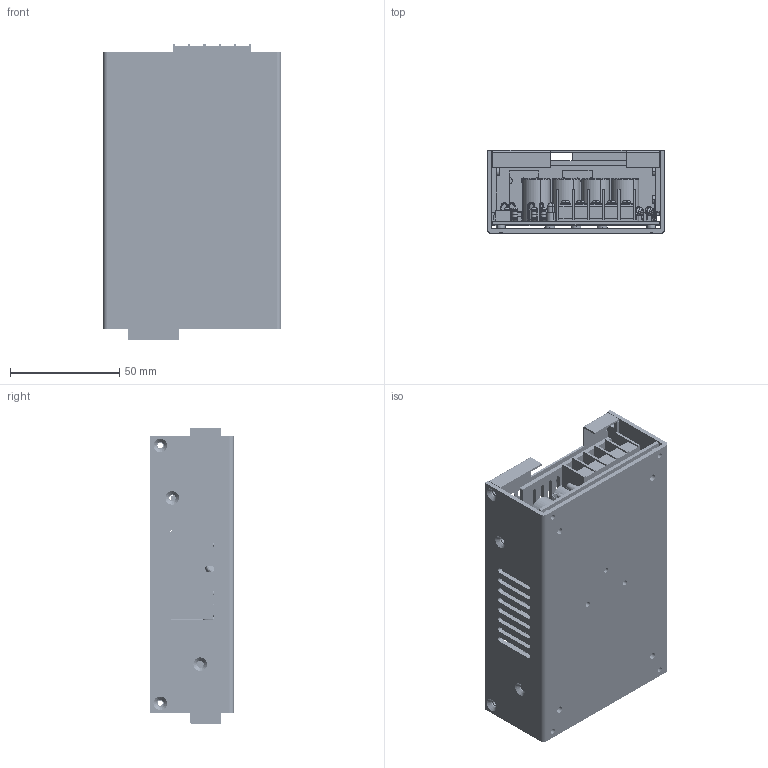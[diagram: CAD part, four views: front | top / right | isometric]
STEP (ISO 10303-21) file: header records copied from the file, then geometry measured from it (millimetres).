
FILE_DESCRIPTION (( 'STEP AP203' ), '1' );
FILE_NAME ('TXH120-E.STEP', '2012-10-17T11:28:10', ( '微软用户' ), ( '微软中国' ), 'SwSTEP 2.0', 'SolidWorks 2011', '' );
FILE_SCHEMA (( 'CONFIG_CONTROL_DESIGN' ));
Products named in the file (1): TXH120-E
Bounding box: 81.4 x 38.1 x 135.25 mm (x, y, z)
Volume: 152522.2 mm3; surface area: 130815.6 mm2
Topology: 64 solids, 64 shells, 3611 faces, 9442 edges, 6081 vertices
Faces by surface type: plane 1732, cylinder 1179, bspline 419, torus 221, sphere 42, cone 18
Entity records: 161524 total; most frequent: CARTESIAN_POINT 72290, ORIENTED_EDGE 18764, DIRECTION 17724, EDGE_CURVE 9382, AXIS2_PLACEMENT_3D 6140, VERTEX_POINT 6079, VECTOR 5444, LINE 5444
